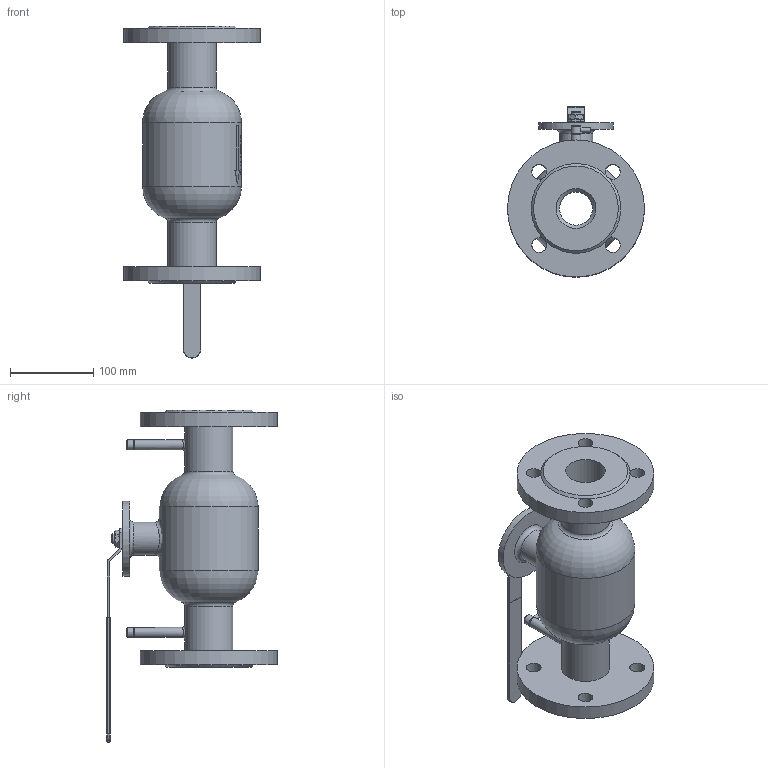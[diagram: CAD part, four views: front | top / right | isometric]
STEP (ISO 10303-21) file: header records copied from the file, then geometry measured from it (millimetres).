
FILE_DESCRIPTION(('STEP AP214'), '1');
FILE_NAME('BVR3232P-SP-F-H Êðàí øàðîâîé ðåãóëèðóþùèé DN.ru Äó50 Ðó40', '', ('UNSPECIFIED'), ('UNSPECIFIED'), 'C3D Converter', 'C3D Toolkit', '');
FILE_SCHEMA(('AUTOMOTIVE_DESIGN { 1 0 10303 214 3 1 1}'));
Length unit declared in the file: millimetre
Products named in the file (1): BVR3232P-SP-F-H
Bounding box: 165 x 205.5 x 400 mm (x, y, z)
Volume: 2180951 mm3; surface area: 263209.9 mm2
Topology: 1 solids, 1 shells, 702 faces, 1824 edges, 1209 vertices
Faces by surface type: plane 336, bspline 177, cylinder 87, extrusion 82, cone 11, torus 9
Full cylindrical faces by diameter (mm): 2.5 x2, 5 x2, 12 x6, 18 x8, 40 x2, 48 x2, 58 x2, 86 x1, 90 x1, 119 x1, 165 x2
Entity records: 79076 total; most frequent: CARTESIAN_POINT 62403, ORIENTED_EDGE 3550, DIRECTION 2333, EDGE_CURVE 1775, VERTEX_POINT 1209, VECTOR 923, EDGE_LOOP 854, LINE 841
